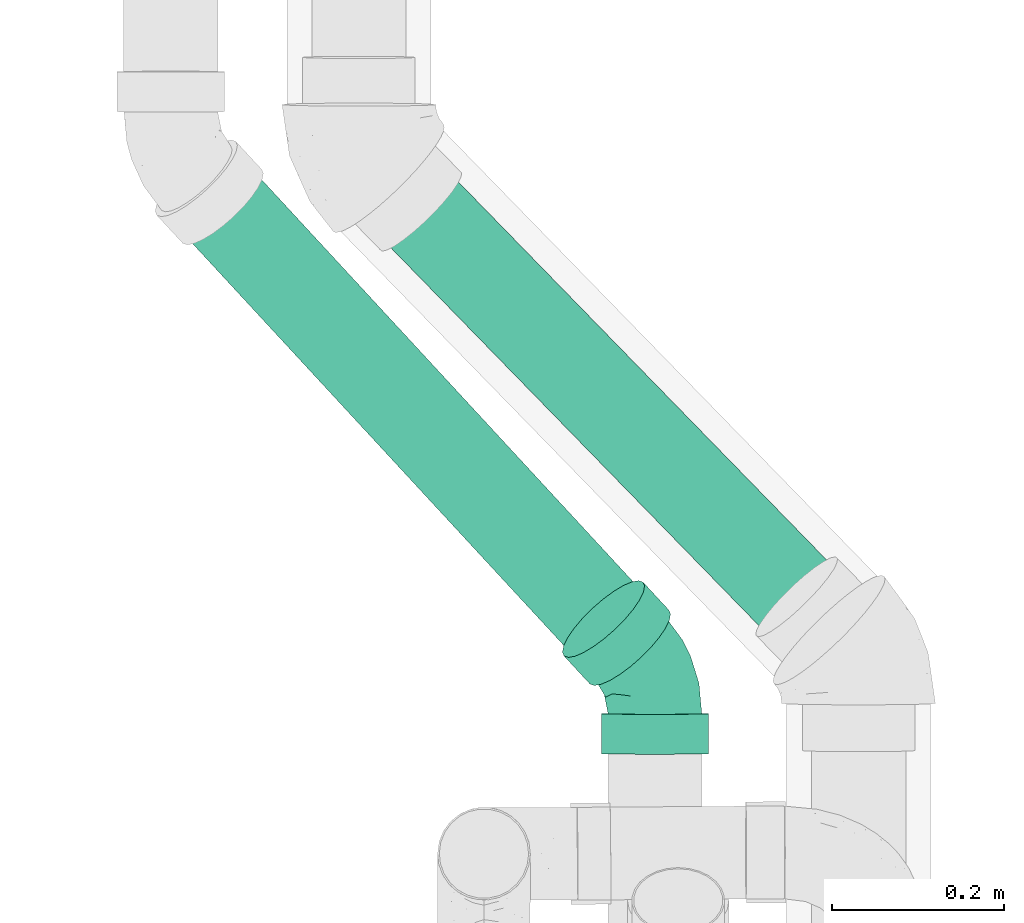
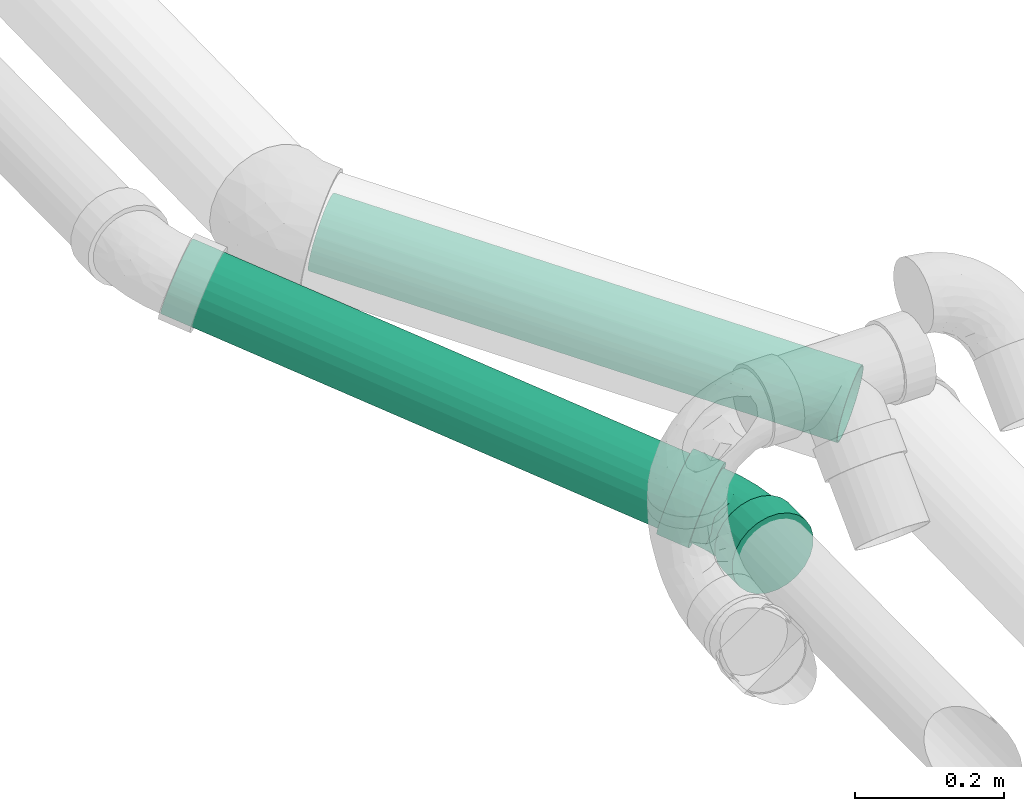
# One storey, part 36 of 78: 2 flow segments, 1 flow fitting.
"""IFC2X3 building model written with IfcOpenShell, lengths in millimetres."""

from ifc_helpers import new_model, entity, si_unit, converted_unit, derived_unit, direction, frame, origin_with_axes, origin_2d_with_axis, place, context, subcontext, project, spatial, hollow_circle, extrude, open_shell, surface_model, source, transform, mapped, type_object, element, save


model = new_model("IFC2X3")

# Units and contexts
model_context = context("Model", 3, precision=0.01, world=frame((0.0, 4.29681676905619e-09, 0.0)), true_north=direction((4.01073788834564e-13, 1.0)))
plan_context = context("Plan", 3, precision=0.01, world=frame((0.0, 4.29681676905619e-09, 0.0)), true_north=direction((4.01073788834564e-13, 1.0)))
body_context = subcontext(model_context, "Body", "Model", "MODEL_VIEW")
ifc_project = project(units=[converted_unit("PLANEANGLEUNIT", "DEGREE", entity("IfcPositiveLengthMeasure", 0.0174532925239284), si_unit("PLANEANGLEUNIT", "RADIAN"), dimensions=[0, 0, 0, 0, 0, 0, 0]), si_unit("AREAUNIT", "SQUARE_METRE"), si_unit("LENGTHUNIT", "METRE", prefix="MILLI"), si_unit("MASSUNIT", "GRAM", prefix="KILO"), si_unit("POWERUNIT", "WATT"), si_unit("PRESSUREUNIT", "PASCAL"), si_unit("FORCEUNIT", "NEWTON", prefix="KILO"), si_unit("ELECTRICVOLTAGEUNIT", "VOLT"), si_unit("ELECTRICCURRENTUNIT", "AMPERE"), si_unit("THERMODYNAMICTEMPERATUREUNIT", "DEGREE_CELSIUS"), si_unit("TIMEUNIT", "SECOND"), si_unit("VOLUMEUNIT", "CUBIC_METRE"), derived_unit("LINEARVELOCITYUNIT", [(si_unit("LENGTHUNIT", "METRE"), 1), (si_unit("TIMEUNIT", "SECOND"), -1)]), derived_unit("VOLUMETRICFLOWRATEUNIT", [(si_unit("VOLUMEUNIT", "CUBIC_METRE"), 1), (si_unit("TIMEUNIT", "SECOND"), -1)]), derived_unit("THERMALTRANSMITTANCEUNIT", [(si_unit("POWERUNIT", "WATT"), 1), (si_unit("THERMODYNAMICTEMPERATUREUNIT", "KELVIN"), -1), (si_unit("AREAUNIT", "SQUARE_METRE"), -1)]), derived_unit("SOUNDPRESSUREUNIT", [(si_unit("PRESSUREUNIT", "PASCAL"), 1)])], contexts=[model_context, plan_context])

# Site, building, storey
site_placement = place(None, frame((0.0, -4.29681676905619e-09, 0.0), z_axis=(0.0, 0.0, 1.0), x_axis=(1.0, 0.0, 0.0)))
site = spatial("IfcSite", under=ifc_project, at=site_placement, Name="ENGM", CompositionType="ELEMENT")
building_placement = place(site_placement, frame((0.0, 4.29681676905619e-09, 0.0), z_axis=(0.0, 0.0, 1.0), x_axis=(1.0, 0.0, 0.0)))
building = spatial("IfcBuilding", under=site, at=building_placement, Name="TH", CompositionType="ELEMENT")
storey_placement = place(building_placement, frame((0.0, 0.0, 205200.0), z_axis=(0.0, 0.0, 1.0), x_axis=(1.0, 0.0, 0.0)))
storey = spatial("IfcBuildingStorey", under=building, at=storey_placement, Name="Nivå D + 1,2 m", CompositionType="ELEMENT", Elevation=205200.0)

# Flow fitting
pipe_fitting_type = type_object("IfcPipeFittingType", Name="magi_sewer_bend_NOR", PredefinedType="BEND")
shared_shape_1 = source(origin_with_axes(), body_context, "Body", "SurfaceModel", [
    surface_model("IfcShellBasedSurfaceModel", [(-45.56349, 27.5, -47.63139), (-45.56349, 14.23505, -53.12592), (-45.56349, 0.0, -55.0), (-45.56349, 53.12592, -14.23505), (-45.56349, 47.63139, -27.5), (-45.56349, 38.89087, -38.89087), (-45.56349, -14.23505, -53.12592), (-45.56349, -27.5, -47.63139), (-45.56349, -38.89087, -38.89087), (-45.56349, -47.63139, -27.5), (-45.56349, -53.12592, -14.23505), (-45.56349, 27.5, 47.63139), (-45.56349, 38.89087, 38.89087), (-45.56349, 0.0, 55.0), (-45.56349, 47.63139, 27.5), (-45.56349, 14.23505, 53.12592), (-45.56349, -38.89087, 38.89087), (-45.56349, -27.5, 47.63139), (-45.56349, -47.63139, 27.5), (-45.56349, -14.23505, 53.12592), (-45.56349, 55.0, 0.0), (-45.56349, 53.12592, 14.23505), (32.21825, 32.21825, -55.0), (22.15256, 42.28395, -53.12592), (12.77282, 51.66369, -47.63139), (-1.46223, 65.89874, -27.5), (4.71825, 59.71825, -38.89087), (4.71825, 59.71825, 38.89087), (-5.34744, 69.78395, 14.23505), (-1.46223, 65.89874, 27.5), (12.77282, 51.66369, 47.63139), (22.15256, 42.28395, 53.12592), (32.21825, 32.21825, 55.0), (51.66369, 12.77282, 47.63139), (42.28395, 22.15255, 53.12592), (14.00816, -33.8187, 30.64983), (-12.1679, -31.08474, 42.44015), (-17.76016, -42.06458, 32.20462), (-18.37655, -51.42077, 0.0), (-2.85835, -49.37776, 0.0), (-11.7394, -50.6705, 9.39178), (65.89874, -1.46223, 27.5), (59.71825, 4.71825, 38.89087), (42.30248, -17.18582, 32.20462), (-21.79307, -20.16804, 50.26718), (5.64727, -13.63371, 49.57419), (1.63253, 33.06484, 51.33467), (9.94272, 26.03453, 54.20004), (-16.41504, -5.29554, 54.27135), (-5.23125, 12.62935, 54.80673), (-27.55752, 7.62142, 54.66623), (-15.62286, 37.71692, 44.9023), (-24.25485, 46.12561, 34.7087), (29.67099, 1.14907, 50.26718), (-21.13274, 22.887, 51.41725), (-45.56349, -53.12592, 14.23505), (21.22552, -35.99679, 21.67592), (-9.86168, -47.58333, 19.10009), (17.0761, -41.22536, 11.95428), (-22.65753, 54.70011, 22.59637), (69.78395, -5.34745, 14.23505), (44.13046, -27.52845, 9.39178), (49.35416, -23.36579, 0.0), (-22.02994, 58.93405, 11.55615), (40.61976, -26.67324, 19.10009), (15.3517, 7.86267, 54.27135), (30.58423, -13.37623, 42.44015), (-24.5159, 59.18663, 0.0), (-6.67262, 71.10913, 0.0), (9.23164, -22.28715, 43.85945), (-45.56349, -55.0, 0.0), (17.03908, -41.13598, 0.0), (36.93651, -32.89419, 0.0), (71.10913, -6.67262, 0.0), (-16.41504, -5.29554, -54.27135), (-11.7394, -50.6705, -9.39178), (17.0761, -41.22536, -11.95428), (42.28395, 22.15255, -53.12592), (15.3517, 7.86267, -54.27135), (-24.53474, 22.22599, -51.33467), (-25.43976, 11.37863, -54.20004), (-15.46497, 49.7665, -34.7087), (51.66369, 12.77282, -47.63139), (59.71825, 4.71825, -38.89087), (30.58423, -13.37623, -42.44015), (-22.65753, 54.70011, -22.59637), (65.89874, -1.46223, -27.5), (69.78395, -5.34745, -14.23505), (40.61976, -26.67324, -19.10009), (-26.09515, 57.25018, -11.55615), (-1.24046, 31.12666, -51.41725), (-9.86168, -47.58333, -19.10009), (-15.62286, 37.71692, -44.9023), (-17.76016, -42.06458, -32.20462), (-12.1679, -31.08474, -42.44015), (9.23164, -22.28715, -43.85945), (14.00816, -33.8187, -30.64983), (-21.79307, -20.16804, -50.26718), (29.67099, 1.14907, -50.26718), (-5.34744, 69.78395, -14.23505), (5.64727, -13.63371, -49.57419), (44.13046, -27.52845, -9.39178), (14.09695, 24.87527, -54.66623), (10.44486, -40.46228, -21.67591), (42.30248, -17.18582, -32.20462), (-5.23125, 12.62935, -54.80673), (-92.06349, -31.5, -54.5596), (-92.06349, 31.5, -54.5596), (-92.06349, -16.3056, -60.85333), (-92.06349, -60.85333, -16.3056), (-92.06349, -44.54773, -44.54773), (-92.06349, -54.5596, -31.5), (-92.06349, 63.0, 0.0), (-92.06349, 54.5596, -31.5), (-92.06349, 0.0, -63.0), (-92.06349, 16.3056, -60.85333), (-92.06349, 44.54773, -44.54773), (-92.06349, 60.85333, -16.3056), (-92.06349, -63.0, 0.0), (-92.06349, -60.85333, 16.3056), (-92.06349, -54.5596, 31.5), (-92.06349, -44.54773, 44.54773), (-92.06349, 54.5596, 31.5), (-92.06349, -31.5, 54.5596), (-92.06349, -16.3056, 60.85333), (-92.06349, 0.0, 63.0), (-92.06349, 60.85333, 16.3056), (-92.06349, 31.5, 54.5596), (-92.06349, 44.54773, 44.54773), (-92.06349, 16.3056, 60.85333), (-45.56349, 0.0, 63.0), (-45.56349, -16.3056, 60.85333), (-45.56349, -31.5, 54.5596), (-45.56349, -44.54773, 44.54773), (-45.56349, -54.5596, 31.5), (-45.56349, -60.85333, 16.3056), (-45.56349, 54.5596, 31.5), (-45.56349, -63.0, 0.0), (-45.56349, 31.5, 54.5596), (-45.56349, 44.54773, 44.54773), (-45.56349, 16.3056, 60.85333), (-45.56349, 63.0, 0.0), (-45.56349, 60.85333, 16.3056), (-45.56349, 54.5596, -31.5), (-45.56349, -60.85333, -16.3056), (-45.56349, -44.54773, -44.54773), (-45.56349, -54.5596, -31.5), (-45.56349, -31.5, -54.5596), (-45.56349, 31.5, -54.5596), (-45.56349, -16.3056, -60.85333), (-45.56349, 0.0, -63.0), (-45.56349, 44.54773, -44.54773), (-45.56349, 60.85333, -16.3056), (-45.56349, 16.3056, -60.85333), (26.51926, 103.67818, 31.5), (20.55099, 109.64645, 0.0), (22.06892, 108.12852, 16.3056), (42.82486, 87.37258, 54.5596), (33.59872, 96.59872, 44.54773), (26.51926, 103.67818, -31.5), (53.56892, 76.62852, 60.85333), (42.82486, 87.37258, -54.5596), (65.09872, 65.09872, 63.0), (22.06892, 108.12852, -16.3056), (33.59872, 96.59872, -44.54773), (65.09872, 65.09872, -63.0), (53.56892, 76.62852, -60.85333), (96.59872, 33.59872, 44.54773), (76.62852, 53.56892, 60.85333), (87.37258, 42.82486, 54.5596), (87.37258, 42.82486, -54.5596), (103.67818, 26.51926, 31.5), (108.12852, 22.06892, 16.3056), (109.64645, 20.55099, 0.0), (103.67818, 26.51926, -31.5), (76.62852, 53.56892, -60.85333), (96.59872, 33.59872, -44.54773), (108.12852, 22.06892, -16.3056), (76.76598, -12.32947, 0.0), (75.24806, -10.81155, 16.3056), (70.79772, -6.36121, 31.5), (54.49212, 9.94439, -54.5596), (63.71825, 0.71825, 44.54773), (54.49212, 9.94439, 54.5596), (43.74806, 20.68845, 60.85333), (32.21826, 32.21826, 63.0), (70.79772, -6.36121, -31.5), (63.71825, 0.71825, -44.54773), (75.24806, -10.81155, -16.3056), (32.21826, 32.21826, -63.0), (43.74806, 20.68845, -60.85333), (9.94439, 54.49212, -54.5596), (20.68845, 43.74806, 60.85333), (-6.36121, 70.79772, -31.5), (-6.36121, 70.79772, 31.5), (9.94439, 54.49212, 54.5596), (0.71825, 63.71825, 44.54773), (-12.32947, 76.76598, 0.0), (-10.81155, 75.24806, 16.3056), (0.71825, 63.71825, -44.54773), (20.68845, 43.74806, -60.85333), (-10.81155, 75.24806, -16.3056)], [open_shell([[[0, 1, 2]], [[0, 3, 4]], [[5, 0, 4]], [[6, 7, 2]], [[7, 8, 2]], [[9, 10, 8]], [[11, 12, 13]], [[13, 12, 14]], [[15, 11, 13]], [[16, 17, 18]], [[19, 13, 17]], [[14, 17, 13]], [[20, 3, 21]], [[22, 23, 24]], [[25, 24, 26]], [[27, 28, 29]], [[27, 30, 31]], [[32, 27, 31]], [[33, 32, 34]], [[35, 36, 37]], [[38, 39, 40]], [[17, 16, 36]], [[41, 42, 43]], [[44, 36, 45]], [[37, 36, 16]], [[31, 46, 47]], [[19, 17, 44]], [[48, 49, 50]], [[13, 19, 48]], [[12, 51, 52]], [[33, 34, 53]], [[50, 15, 13]], [[11, 54, 51]], [[55, 38, 40]], [[30, 27, 51]], [[56, 57, 58]], [[51, 12, 11]], [[16, 18, 37]], [[14, 52, 59]], [[21, 14, 59]], [[60, 61, 62]], [[63, 20, 21]], [[64, 56, 58]], [[57, 40, 58]], [[11, 15, 54]], [[32, 47, 65]], [[42, 33, 66]], [[29, 28, 59]], [[65, 34, 32]], [[35, 37, 57]], [[42, 66, 43]], [[49, 47, 46]], [[66, 33, 53]], [[18, 57, 37]], [[61, 60, 64]], [[35, 43, 66]], [[50, 54, 15]], [[35, 56, 43]], [[21, 59, 63]], [[18, 55, 57]], [[67, 63, 68]], [[36, 69, 45]], [[28, 63, 59]], [[45, 65, 48]], [[29, 59, 52]], [[45, 53, 65]], [[29, 52, 27]], [[49, 48, 65]], [[31, 30, 46]], [[46, 51, 54]], [[44, 48, 19]], [[14, 12, 52]], [[64, 60, 41]], [[64, 41, 43]], [[69, 35, 66]], [[27, 52, 51]], [[51, 46, 30]], [[49, 46, 54]], [[36, 44, 17]], [[48, 44, 45]], [[65, 53, 34]], [[66, 53, 45]], [[55, 70, 38]], [[58, 39, 71]], [[55, 40, 57]], [[39, 58, 40]], [[61, 58, 72]], [[62, 61, 72]], [[62, 73, 60]], [[58, 61, 64]], [[65, 47, 49]], [[32, 31, 47]], [[48, 50, 13]], [[54, 50, 49]], [[35, 69, 36]], [[66, 45, 69]], [[68, 63, 28]], [[63, 67, 20]], [[43, 56, 64]], [[57, 56, 35]], [[72, 58, 71]], [[6, 2, 74]], [[39, 75, 76]], [[22, 77, 78]], [[79, 80, 1]], [[4, 81, 5]], [[82, 83, 84]], [[85, 81, 4]], [[86, 87, 88]], [[3, 89, 85]], [[24, 23, 90]], [[10, 75, 38]], [[0, 79, 1]], [[75, 10, 91]], [[26, 92, 81]], [[91, 9, 93]], [[93, 8, 94]], [[8, 7, 94]], [[95, 96, 94]], [[10, 9, 91]], [[8, 93, 9]], [[97, 7, 6]], [[98, 78, 77]], [[99, 25, 85]], [[100, 97, 74]], [[20, 67, 89]], [[96, 93, 94]], [[68, 99, 89]], [[100, 74, 78]], [[26, 24, 92]], [[85, 4, 3]], [[25, 81, 85]], [[97, 94, 7]], [[90, 92, 24]], [[80, 74, 2]], [[92, 90, 79]], [[5, 92, 0]], [[87, 62, 101]], [[102, 23, 22]], [[98, 77, 82]], [[103, 88, 76]], [[83, 104, 84]], [[100, 98, 84]], [[83, 86, 104]], [[105, 102, 78]], [[104, 96, 84]], [[105, 78, 74]], [[101, 62, 72]], [[102, 90, 23]], [[105, 80, 79]], [[75, 91, 76]], [[96, 103, 93]], [[84, 95, 100]], [[86, 88, 104]], [[99, 85, 89]], [[96, 104, 88]], [[25, 26, 81]], [[5, 81, 92]], [[92, 79, 0]], [[105, 79, 90]], [[74, 97, 6]], [[94, 97, 100]], [[84, 98, 82]], [[78, 98, 100]], [[38, 75, 39]], [[38, 70, 10]], [[103, 76, 91]], [[101, 76, 88]], [[76, 72, 71]], [[87, 73, 62]], [[76, 101, 72]], [[87, 101, 88]], [[74, 80, 105]], [[2, 1, 80]], [[78, 102, 22]], [[90, 102, 105]], [[96, 95, 84]], [[94, 100, 95]], [[20, 89, 3]], [[89, 67, 68]], [[93, 103, 91]], [[88, 103, 96]], [[39, 76, 71]], [[106, 107, 108]], [[109, 106, 110]], [[107, 106, 109]], [[109, 110, 111]], [[112, 113, 109]], [[114, 107, 115]], [[114, 108, 107]], [[107, 113, 116]], [[109, 113, 107]], [[113, 112, 117]], [[112, 109, 118]], [[119, 120, 121]], [[118, 121, 122]], [[123, 124, 125]], [[123, 125, 121]], [[122, 121, 125]], [[112, 122, 126]], [[118, 122, 112]], [[122, 127, 128]], [[125, 127, 122]], [[125, 129, 127]], [[118, 119, 121]], [[130, 131, 132]], [[130, 132, 133]], [[133, 134, 135]], [[130, 133, 136]], [[133, 137, 136]], [[138, 136, 139]], [[138, 140, 130]], [[136, 141, 142]], [[136, 138, 130]], [[143, 141, 136]], [[133, 135, 137]], [[144, 143, 137]], [[145, 144, 146]], [[144, 147, 148]], [[147, 144, 145]], [[149, 150, 147]], [[143, 148, 151]], [[152, 141, 143]], [[148, 150, 153]], [[148, 143, 144]], [[150, 148, 147]], [[143, 136, 137]], [[152, 117, 141]], [[143, 113, 152]], [[107, 151, 148]], [[143, 151, 116]], [[115, 148, 153]], [[152, 113, 117]], [[117, 112, 141]], [[115, 107, 148]], [[116, 151, 107]], [[116, 113, 143]], [[114, 115, 153]], [[153, 150, 114]], [[106, 147, 145]], [[111, 146, 144]], [[145, 146, 110]], [[137, 109, 144]], [[147, 108, 149]], [[147, 106, 108]], [[108, 114, 149]], [[145, 110, 106]], [[146, 111, 110]], [[109, 111, 144]], [[137, 118, 109]], [[149, 114, 150]], [[135, 119, 137]], [[134, 120, 135]], [[123, 133, 132]], [[134, 133, 121]], [[124, 132, 131]], [[135, 120, 119]], [[119, 118, 137]], [[124, 123, 132]], [[121, 133, 123]], [[121, 120, 134]], [[125, 124, 131]], [[131, 130, 125]], [[129, 140, 138]], [[139, 127, 138]], [[122, 136, 142]], [[139, 136, 128]], [[126, 142, 141]], [[140, 129, 130]], [[138, 127, 129]], [[130, 129, 125]], [[139, 128, 127]], [[136, 122, 128]], [[126, 122, 142]], [[141, 112, 126]], [[154, 155, 156]], [[157, 154, 158]], [[159, 154, 160]], [[160, 154, 157]], [[161, 160, 162]], [[155, 159, 163]], [[155, 154, 159]], [[159, 161, 164]], [[160, 161, 159]], [[161, 165, 166]], [[161, 162, 167]], [[168, 169, 167]], [[161, 167, 170]], [[171, 172, 173]], [[171, 173, 167]], [[174, 167, 173]], [[165, 170, 175]], [[161, 170, 165]], [[170, 174, 176]], [[170, 167, 174]], [[177, 174, 173]], [[162, 168, 167]], [[178, 179, 180]], [[181, 178, 180]], [[182, 183, 184]], [[180, 182, 181]], [[181, 182, 185]], [[186, 181, 187]], [[186, 188, 178]], [[181, 189, 190]], [[186, 178, 181]], [[181, 191, 189]], [[182, 184, 185]], [[192, 193, 185]], [[194, 192, 195]], [[193, 192, 194]], [[194, 195, 196]], [[197, 194, 198]], [[191, 193, 199]], [[200, 189, 191]], [[193, 197, 201]], [[193, 191, 185]], [[197, 193, 194]], [[191, 181, 185]], [[200, 166, 189]], [[191, 161, 200]], [[159, 199, 193]], [[191, 199, 164]], [[163, 193, 201]], [[200, 161, 166]], [[166, 165, 189]], [[163, 159, 193]], [[164, 199, 159]], [[164, 161, 191]], [[155, 163, 201]], [[201, 197, 155]], [[154, 194, 196]], [[157, 195, 192]], [[196, 195, 158]], [[185, 160, 192]], [[194, 156, 198]], [[194, 154, 156]], [[156, 155, 198]], [[196, 158, 154]], [[195, 157, 158]], [[160, 157, 192]], [[185, 162, 160]], [[198, 155, 197]], [[184, 168, 185]], [[183, 169, 184]], [[171, 182, 180]], [[183, 182, 167]], [[172, 180, 179]], [[184, 169, 168]], [[168, 162, 185]], [[172, 171, 180]], [[167, 182, 171]], [[167, 169, 183]], [[173, 172, 179]], [[179, 178, 173]], [[177, 188, 186]], [[187, 174, 186]], [[170, 181, 190]], [[187, 181, 176]], [[175, 190, 189]], [[188, 177, 178]], [[186, 174, 177]], [[178, 177, 173]], [[187, 176, 174]], [[181, 170, 176]], [[175, 170, 190]], [[189, 165, 175]], [[0, 2, 8]], [[0, 10, 14]], [[8, 10, 0]], [[70, 55, 10]], [[3, 0, 21]], [[14, 21, 0]], [[10, 17, 14]], [[18, 10, 55]], [[17, 10, 18]], [[22, 24, 25]], [[25, 99, 22]], [[22, 99, 87]], [[82, 86, 83]], [[82, 77, 22]], [[82, 87, 86]], [[22, 87, 82]], [[87, 60, 73]], [[87, 99, 68]], [[27, 68, 28]], [[68, 27, 32]], [[41, 33, 42]], [[60, 87, 41]], [[41, 87, 33]], [[32, 33, 68]], [[87, 68, 33]]])]),
])
flow_fitting_placement = place(storey_placement, frame((903665.78029, 480137.5138, 4097.23105), z_axis=(0.391234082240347, -0.00920200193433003, 0.920245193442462), x_axis=(-3.56062212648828e-07, 0.99995000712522, 0.00999916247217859)))
element("IfcFlowFitting", 1, at=flow_fitting_placement, inside=storey, type_object=pipe_fitting_type, Name="magi_sewer_bend_NOR", context=body_context, shape_type="MappedRepresentation", body=[
    mapped(shared_shape_1, transform((0.0, 0.0, 0.0), scale=1.0)),
])

# Flow segments
pipe_segment_type_1 = type_object("IfcPipeSegmentType", Name="SUPER MA", PredefinedType="RIGIDSEGMENT")
shared_shape_2 = source(origin_with_axes(), body_context, "Body", "SweptSolid", [
    extrude(hollow_circle(Radius=55.0, WallThickness=2.0, at=origin_2d_with_axis()), frame((0.0, 0.0, 0.0), z_axis=(1.0, 0.0, 0.0), x_axis=(0.0, 1.0, 0.0)), (0.0, 0.0, 1.0), 748.8),
])
flow_segment_1_placement = place(storey_placement, frame((903868.54195, 480189.55019, 4182.52064999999), z_axis=(-0.685282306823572, -0.710451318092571, 0.160147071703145), x_axis=(-0.685282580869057, 0.703479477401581, 0.18842613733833)))
element("IfcFlowSegment", 2, at=flow_segment_1_placement, inside=storey, type_object=pipe_segment_type_1, Name="SUPER MA", context=body_context, shape_type="MappedRepresentation", body=[
    mapped(shared_shape_2, transform((0.0, 0.0, 0.0), scale=1.0)),
])
pipe_segment_type_2 = type_object("IfcPipeSegmentType", Name="MA", PredefinedType="RIGIDSEGMENT")
shared_shape_3 = source(origin_with_axes(), body_context, "Body", "SweptSolid", [
    extrude(hollow_circle(Radius=55.0, WallThickness=2.0, at=origin_2d_with_axis()), frame((0.0, 0.0, 0.0), z_axis=(1.0, 0.0, 0.0), x_axis=(0.0, 1.0, 0.0)), (0.0, 0.0, 1.0), 775.2),
])
flow_segment_2_placement = place(storey_placement, frame((903131.67033, 480715.58491, 4330.08392999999), z_axis=(-0.65074389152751, -0.709837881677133, 0.269559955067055), x_axis=(0.650744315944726, -0.704304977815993, -0.283701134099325)))
element("IfcFlowSegment", 3, at=flow_segment_2_placement, inside=storey, type_object=pipe_segment_type_2, Name="MA", context=body_context, shape_type="MappedRepresentation", body=[
    mapped(shared_shape_3, transform((0.0, 0.0, 0.0), scale=1.0)),
])

save(model, "model.ifc")
